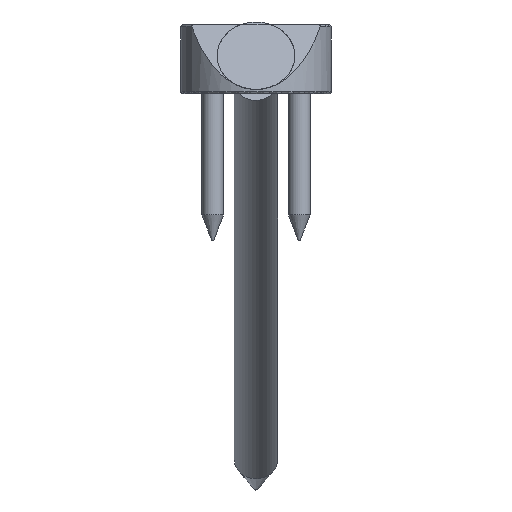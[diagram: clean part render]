
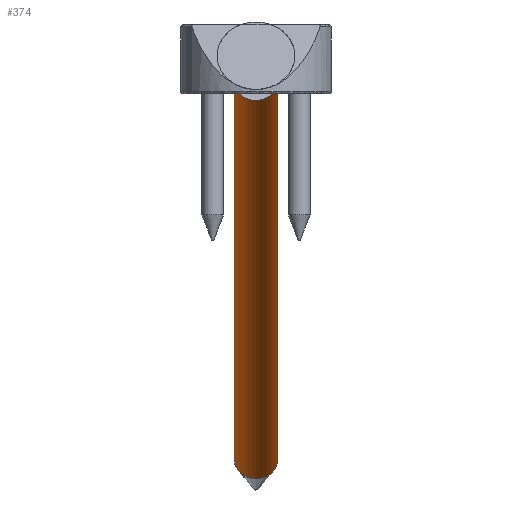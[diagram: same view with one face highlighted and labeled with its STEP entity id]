
A CAD part, front view. The second image highlights one B-rep face of the part: STEP entity #374.
In plain terms, the highlighted cylindrical face has radius 5 mm (diameter 10 mm), a full revolution.
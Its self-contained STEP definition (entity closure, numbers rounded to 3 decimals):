
#59=CYLINDRICAL_SURFACE('',#464,5.);
#132=ORIENTED_EDGE('',*,*,#169,.T.);
#133=ORIENTED_EDGE('',*,*,#168,.F.);
#168=EDGE_CURVE('',#199,#199,#226,.T.);
#169=EDGE_CURVE('',#200,#200,#227,.T.);
#199=VERTEX_POINT('',#700);
#200=VERTEX_POINT('',#703);
#226=CIRCLE('',#463,5.);
#227=CIRCLE('',#465,5.);
#279=EDGE_LOOP('',(#132));
#280=EDGE_LOOP('',(#133));
#334=FACE_BOUND('',#279,.T.);
#335=FACE_BOUND('',#280,.T.);
#374=ADVANCED_FACE('',(#334,#335),#59,.T.);
#463=AXIS2_PLACEMENT_3D('',#699,#584,#585);
#464=AXIS2_PLACEMENT_3D('',#701,#586,#587);
#465=AXIS2_PLACEMENT_3D('',#702,#588,#589);
#584=DIRECTION('',(0.,1.,0.));
#585=DIRECTION('',(0.,0.,1.));
#586=DIRECTION('',(0.,1.,0.));
#587=DIRECTION('',(0.,0.,1.));
#588=DIRECTION('',(0.,1.,0.));
#589=DIRECTION('',(0.,0.,1.));
#699=CARTESIAN_POINT('',(0.,42.,0.));
#700=CARTESIAN_POINT('',(0.,42.,5.));
#701=CARTESIAN_POINT('',(0.,54.,0.));
#702=CARTESIAN_POINT('',(0.,-133.,0.));
#703=CARTESIAN_POINT('',(0.,-133.,5.));
